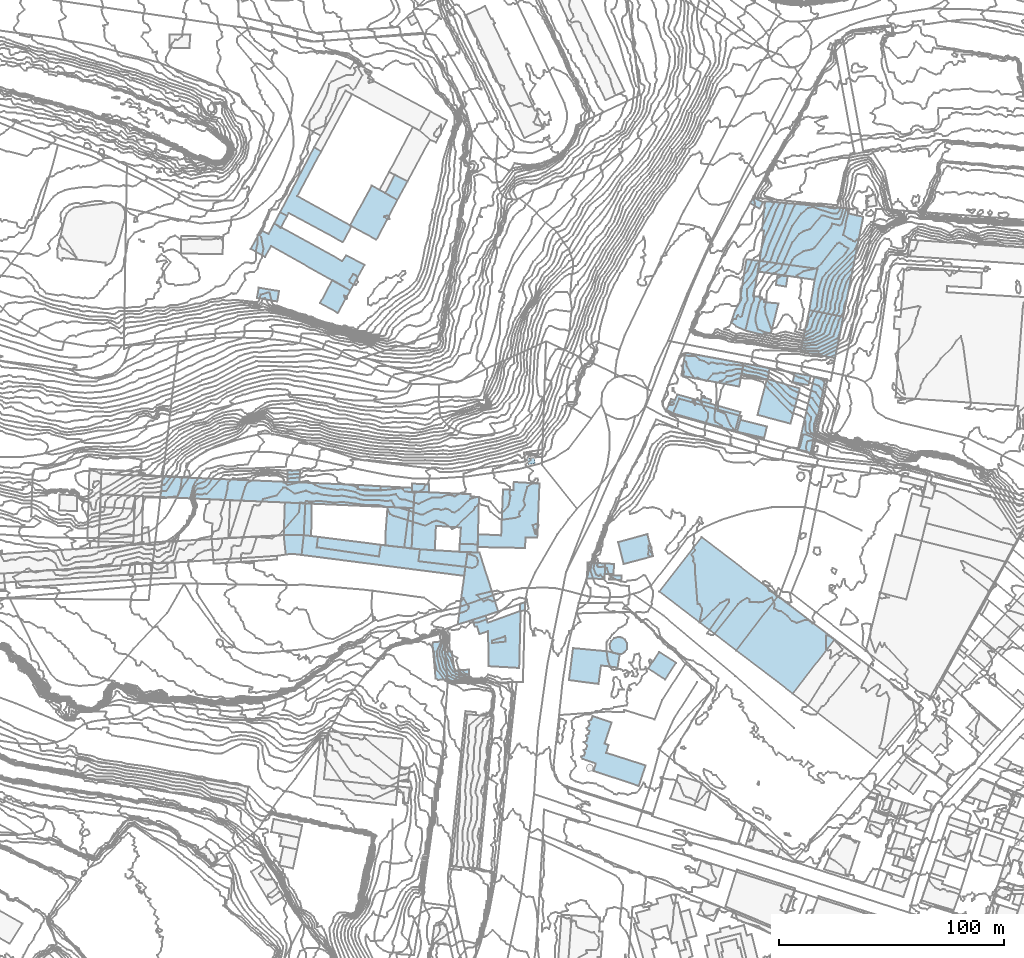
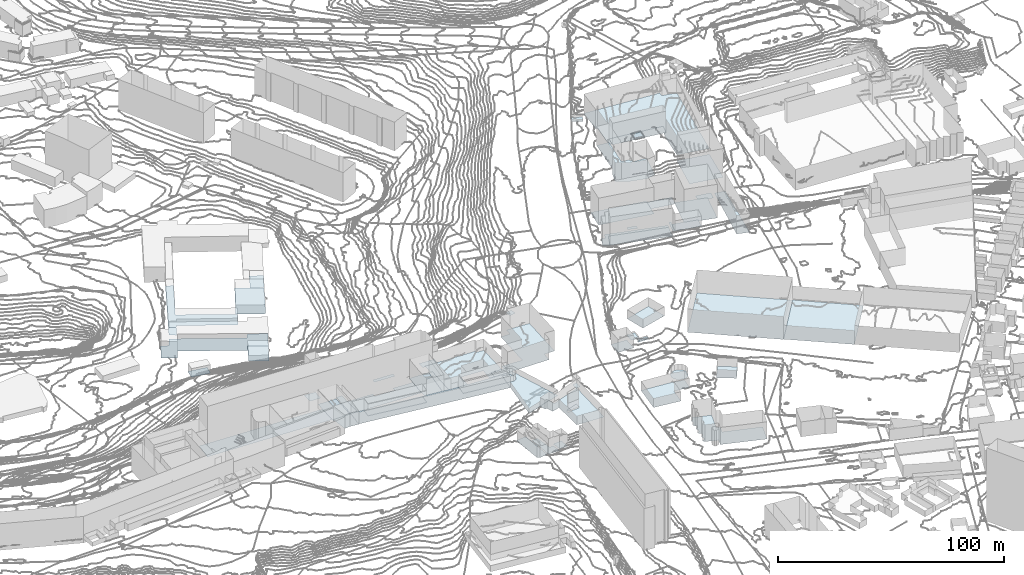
# Not in any storey, part 9 of 419: 56 footings.
"""IFC2X3 model written with IfcOpenShell, lengths in metres."""

from ifc_helpers import new_model, si_unit, frame, origin_with_axes, place, context, subcontext, project, faceted_brep, element, save


model = new_model("IFC2X3")

# Units and contexts
model_context = context("Model", 3, precision=1e-05, world=origin_with_axes())
body_context = subcontext(model_context, "Body", "Model", "MODEL_VIEW")
ifc_project = project(units=[si_unit("AREAUNIT", "SQUARE_METRE"), si_unit("LENGTHUNIT", "METRE")], contexts=[model_context])

# Footings
footing_1_placement = place(None, frame((808.3920204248, 392.4976909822, 74.1273982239), z_axis=(0.0, 0.0, 1.0), x_axis=(1.0, 0.0, 0.0)))
element("IfcFooting", 1, at=footing_1_placement, Name="Sol 0", PredefinedType="STRIP_FOOTING", context=body_context, shape_type="Brep", body=[
    faceted_brep([(7.0, -1.3999999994, 0.0), (0.0, 0.0, 0.0), (0.7999999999, 4.0, 0.0), (7.8999999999, 2.7000000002, 0.0)], [[[0, 1, 2]], [[2, 3, 0]]]),
])
footing_2_placement = place(None, frame((782.6920204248, 370.6976909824, 79.8897016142), z_axis=(0.0, 0.0, 1.0), x_axis=(1.0, 0.0, 0.0)))
element("IfcFooting", 2, at=footing_2_placement, Name="Sol 0", PredefinedType="STRIP_FOOTING", context=body_context, shape_type="Brep", body=[
    faceted_brep([(0.0, 0.0, 0.0), (1.9, 6.9000000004, 0.0), (2.9, 6.6000000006, 0.0), (0.9, -0.2999999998, 0.0)], [[[0, 1, 2]], [[2, 3, 0]]]),
])
footing_3_placement = place(None, frame((792.7920204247, 441.5976909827, 80.2005007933), z_axis=(0.0, 0.0, 1.0), x_axis=(1.0, 0.0, 0.0)))
element("IfcFooting", 3, at=footing_3_placement, Name="Sol 0", PredefinedType="STRIP_FOOTING", context=body_context, shape_type="Brep", body=[
    faceted_brep([(26.6000000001, 1.2000000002, 0.0), (25.3, -3.7000000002, 0.0), (0.0, 0.0, 0.0), (0.9, 4.7000000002, 0.0)], [[[0, 1, 2]], [[2, 3, 0]]]),
])
footing_4_placement = place(None, frame((570.3920204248, 429.7976909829, 39.4399986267), z_axis=(0.0, 0.0, 1.0), x_axis=(1.0, 0.0, 0.0)))
element("IfcFooting", 4, at=footing_4_placement, Name="Sol 0", PredefinedType="STRIP_FOOTING", context=body_context, shape_type="Brep", body=[
    faceted_brep([(9.7999999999, 3.0999999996, 0.0), (9.0, -1.5, 0.0), (0.0, 0.0, 0.0), (0.7999999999, 4.5999999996, 0.0)], [[[0, 1, 2]], [[2, 3, 0]]]),
])
footing_5_placement = place(None, frame((724.8920204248, 307.2976909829, 79.5649978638), z_axis=(0.0, 0.0, 1.0), x_axis=(1.0, 0.0, 0.0)))
element("IfcFooting", 5, at=footing_5_placement, Name="Sol 0", PredefinedType="STRIP_FOOTING", context=body_context, shape_type="Brep", body=[
    faceted_brep([(3.8999999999, -0.2000000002, 0.0), (0.0, 0.0, 0.0), (0.2, 4.5999999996, 0.0), (4.1, 4.3999999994, 0.0)], [[[0, 1, 2]], [[2, 3, 0]]]),
])
footing_6_placement = place(None, frame((582.2920204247, 324.4976909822, 76.1870000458), z_axis=(0.0, 0.0, 1.0), x_axis=(1.0, 0.0, 0.0)))
element("IfcFooting", 6, at=footing_6_placement, Name="Sol 0", PredefinedType="STRIP_FOOTING", context=body_context, shape_type="Brep", body=[
    faceted_brep([(8.9, 0.0, 0.0), (7.9, -8.7999999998, 0.0), (3.7000000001, -8.2999999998, 0.0), (0.9, -8.5999999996, 0.0), (0.0, 0.0, 0.0)], [[[0, 1, 2]], [[3, 4, 0]], [[0, 2, 3]]]),
])
footing_7_placement = place(None, frame((662.9920204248, 310.3976909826, 76.4266980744), z_axis=(0.0, 0.0, 1.0), x_axis=(1.0, 0.0, 0.0)))
element("IfcFooting", 7, at=footing_7_placement, Name="Sol 0", PredefinedType="STRIP_FOOTING", context=body_context, shape_type="Brep", body=[
    faceted_brep([(3.0, -0.5, 0.0), (0.0, 0.0, 0.0), (0.9, 5.7000000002, 0.0), (5.2999999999, 1.0, 0.0), (4.2999999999, -0.0999999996, 0.0), (5.2, 3.9000000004, 0.0), (5.6, 2.5, 0.0), (4.1, 4.9000000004, 0.0)], [[[0, 1, 2]], [[3, 4, 0]], [[5, 6, 3]], [[2, 7, 5]], [[3, 0, 2]], [[2, 5, 3]]]),
])
footing_8_placement = place(None, frame((627.3920204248, 319.8976909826, 74.774999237), z_axis=(0.0, 0.0, 1.0), x_axis=(1.0, 0.0, 0.0)))
element("IfcFooting", 8, at=footing_8_placement, Name="Sol 0", PredefinedType="STRIP_FOOTING", context=body_context, shape_type="Brep", body=[
    faceted_brep([(0.0, 0.0, 0.0), (0.2, 6.4000000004, 0.0), (1.0, 17.0999999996, 0.0), (10.7, 16.7000000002, 0.0), (8.3999999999, -0.9000000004, 0.0)], [[[0, 1, 2]], [[3, 4, 0]], [[0, 2, 3]]]),
])
footing_9_placement = place(None, frame((749.0920204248, 299.4976909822, 80.233997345), z_axis=(0.0, 0.0, 1.0), x_axis=(1.0, 0.0, 0.0)))
element("IfcFooting", 9, at=footing_9_placement, Name="Sol 0", PredefinedType="STRIP_FOOTING", context=body_context, shape_type="Brep", body=[
    faceted_brep([(18.8, 24.1000000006, 0.0), (52.1, -1.3999999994, 0.0), (52.7, -2.0, 0.0), (34.1, -26.1999999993, 0.0), (0.0, 0.0, 0.0)], [[[0, 1, 2]], [[3, 4, 0]], [[0, 2, 3]]]),
])
footing_10_placement = place(None, frame((758.8920204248, 395.2976909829, 76.6662023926), z_axis=(0.0, 0.0, 1.0), x_axis=(1.0, 0.0, 0.0)))
element("IfcFooting", 10, at=footing_10_placement, Name="Sol 0", PredefinedType="STRIP_FOOTING", context=body_context, shape_type="Brep", body=[
    faceted_brep([(0.0, 0.0, 0.0), (1.7, 9.8999999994, 0.0), (2.1, 10.1999999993, 0.0), (27.6, 5.5, 0.0), (25.7, -4.8000000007, 0.0)], [[[0, 1, 2]], [[3, 4, 0]], [[0, 2, 3]]]),
])
footing_11_placement = place(None, frame((793.6920204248, 446.2976909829, 77.1019989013), z_axis=(0.0, 0.0, 1.0), x_axis=(1.0, 0.0, 0.0)))
element("IfcFooting", 11, at=footing_11_placement, Name="Sol 0", PredefinedType="STRIP_FOOTING", context=body_context, shape_type="Brep", body=[
    faceted_brep([(1.0, 13.5, 0.0), (2.4, 26.5, 0.0), (34.3, 23.6999999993, 0.0), (25.7000000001, -3.5, 0.0), (0.0, 0.0, 0.0), (1.9, 13.3999999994, 0.0), (22.1, -21.9000000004, 0.0), (24.4, -8.4000000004, 0.0), (46.0, 19.5999999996, 0.0), (37.1, -24.8000000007, 0.0), (39.4, 23.2999999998, 0.0), (39.2000000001, 21.0999999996, 0.0)], [[[0, 1, 2]], [[3, 4, 5]], [[6, 7, 3]], [[8, 9, 6]], [[2, 10, 11]], [[5, 0, 2]], [[8, 6, 3]], [[5, 2, 11]], [[8, 3, 5]], [[5, 11, 8]]]),
])
footing_12_placement = place(None, frame((783.1920204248, 273.2976909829, 80.3804008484), z_axis=(0.0, 0.0, 1.0), x_axis=(1.0, 0.0, 0.0)))
element("IfcFooting", 12, at=footing_12_placement, Name="Sol 0", PredefinedType="STRIP_FOOTING", context=body_context, shape_type="Brep", body=[
    faceted_brep([(0.0, 0.0, 0.0), (18.6, 24.1999999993, 0.0), (43.7000000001, 4.8999999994, 0.0), (25.2000000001, -19.2000000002, 0.0)], [[[0, 1, 2]], [[2, 3, 0]]]),
])
footing_13_placement = place(None, frame((726.8920204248, 304.7976909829, 79.458000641), z_axis=(0.0, 0.0, 1.0), x_axis=(1.0, 0.0, 0.0)))
element("IfcFooting", 13, at=footing_13_placement, Name="Sol 0", PredefinedType="STRIP_FOOTING", context=body_context, shape_type="Brep", body=[
    faceted_brep([(0.7, 1.8999999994, 0.0), (5.5, 1.6999999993, 0.0), (5.2999999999, -0.2000000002, 0.0), (0.0, 0.0, 0.0), (0.0, 0.5, 0.0), (0.6, 0.5, 0.0)], [[[0, 1, 2]], [[3, 4, 5]], [[5, 0, 2]], [[2, 3, 5]]]),
])
footing_14_placement = place(None, frame((627.3920204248, 476.3976909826, 39.5999984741), z_axis=(0.0, 0.0, 1.0), x_axis=(1.0, 0.0, 0.0)))
element("IfcFooting", 14, at=footing_14_placement, Name="Sol 0", PredefinedType="STRIP_FOOTING", context=body_context, shape_type="Brep", body=[
    faceted_brep([(4.2, 8.2000000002, 0.0), (9.7999999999, 5.2000000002, 0.0), (5.2999999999, -3.0, 0.0), (0.0, 0.0, 0.0)], [[[0, 1, 2]], [[2, 3, 0]]]),
])
footing_15_placement = place(None, frame((598.3920204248, 427.4976909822, 39.6550003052), z_axis=(0.0, 0.0, 1.0), x_axis=(1.0, 0.0, 0.0)))
element("IfcFooting", 15, at=footing_15_placement, Name="Sol 0", PredefinedType="STRIP_FOOTING", context=body_context, shape_type="Brep", body=[
    faceted_brep([(5.3999999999, 10.4000000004, 0.0), (13.3999999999, 5.7000000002, 0.0), (7.8999999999, -4.2999999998, 0.0), (0.0, 0.0, 0.0)], [[[0, 1, 2]], [[2, 3, 0]]]),
])
footing_16_placement = place(None, frame((615.0920204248, 344.8976909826, 72.5699978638), z_axis=(0.0, 0.0, 1.0), x_axis=(1.0, 0.0, 0.0)))
element("IfcFooting", 16, at=footing_16_placement, Name="Sol 0", PredefinedType="STRIP_FOOTING", context=body_context, shape_type="Brep", body=[
    faceted_brep([(0.0, 0.0, 0.0), (0.2, 1.9000000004, 0.0), (10.3, 1.2999999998, 0.0), (10.2, -0.5, 0.0)], [[[0, 1, 2]], [[2, 3, 0]]]),
])
footing_17_placement = place(None, frame((583.9920204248, 348.1976909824, 71.1299972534), z_axis=(0.0, 0.0, 1.0), x_axis=(1.0, 0.0, 0.0)))
element("IfcFooting", 17, at=footing_17_placement, Name="Sol 0", PredefinedType="STRIP_FOOTING", context=body_context, shape_type="Brep", body=[
    faceted_brep([(5.2999999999, -0.2000000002, 0.0), (0.0, 0.0, 0.0), (0.1, 5.2000000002, 0.0), (5.6, 4.9000000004, 0.0)], [[[0, 1, 2]], [[2, 3, 0]]]),
])
footing_18_placement = place(None, frame((660.4920204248, 317.0976909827, 76.4400024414), z_axis=(0.0, 0.0, 1.0), x_axis=(1.0, 0.0, 0.0)))
element("IfcFooting", 18, at=footing_18_placement, Name="Sol 0", PredefinedType="STRIP_FOOTING", context=body_context, shape_type="Brep", body=[
    faceted_brep([(8.0, 3.2999999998, 0.0), (7.7999999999, 0.0999999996, 0.0), (7.7, -0.2999999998, 0.0), (0.0, 0.0, 0.0), (0.0, 3.5, 0.0)], [[[0, 1, 2]], [[3, 4, 0]], [[0, 2, 3]]]),
])
footing_19_placement = place(None, frame((767.3920204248, 384.0976909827, 78.0046014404), z_axis=(0.0, 0.0, 1.0), x_axis=(1.0, 0.0, 0.0)))
element("IfcFooting", 19, at=footing_19_placement, Name="Sol 0", PredefinedType="STRIP_FOOTING", context=body_context, shape_type="Brep", body=[
    faceted_brep([(4.2999999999, -1.2000000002, 0.0), (0.0, 0.0, 0.0), (0.5, 1.7000000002, 0.0), (4.7999999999, 0.5, 0.0)], [[[0, 1, 2]], [[2, 3, 0]]]),
])
footing_20_placement = place(None, frame((714.3920204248, 226.1976909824, 78.0216014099), z_axis=(0.0, 0.0, 1.0), x_axis=(1.0, 0.0, 0.0)))
element("IfcFooting", 20, at=footing_20_placement, Name="Sol 0", PredefinedType="STRIP_FOOTING", context=body_context, shape_type="Brep", body=[
    faceted_brep([(6.5, -3.0999999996, 0.0), (5.2, -2.7000000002, 0.0), (0.7, -1.0999999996, 0.0), (25.6, -13.0999999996, 0.0), (5.5, -6.5, 0.0), (11.1, 1.6000000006, 0.0), (28.6, -4.0, 0.0), (10.3999999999, 5.7000000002, 0.0), (12.1, 5.1000000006, 0.0), (5.0, 17.9000000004, 0.0), (13.5, 15.1000000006, 0.0), (3.7999999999, 14.5, 0.0), (3.2999999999, 15.7000000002, 0.0), (4.5, 16.2999999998, 0.0), (2.8999999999, 11.7000000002, 0.0), (2.3999999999, 12.7000000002, 0.0), (3.2999999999, 13.2999999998, 0.0), (2.7999999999, 8.2999999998, 0.0), (2.1, 9.4000000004, 0.0), (3.2999999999, 10.0, 0.0), (2.7, 4.7999999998, 0.0), (1.1, 6.2999999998, 0.0), (2.2999999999, 6.9000000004, 0.0), (1.7, 1.7999999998, 0.0), (1.1, 2.7999999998, 0.0), (2.1, 3.2999999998, 0.0), (0.0, 0.0, 0.0), (1.2999999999, 0.5, 0.0), (3.7999999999, 11.4000000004, 0.0)], [[[0, 1, 2]], [[3, 4, 0]], [[5, 6, 3]], [[7, 8, 5]], [[9, 10, 7]], [[11, 12, 13]], [[14, 15, 16]], [[17, 18, 19]], [[20, 21, 22]], [[23, 24, 25]], [[2, 26, 27]], [[5, 3, 0]], [[9, 7, 5]], [[14, 16, 11]], [[17, 19, 28]], [[20, 22, 17]], [[23, 25, 20]], [[0, 2, 27]], [[9, 5, 0]], [[14, 11, 13]], [[20, 17, 28]], [[27, 23, 20]], [[13, 9, 0]], [[28, 14, 13]], [[0, 27, 20]], [[28, 13, 0]], [[0, 20, 28]]]),
])
footing_21_placement = place(None, frame((580.5920204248, 467.8976909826, 39.4398013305), z_axis=(0.0, 0.0, 1.0), x_axis=(1.0, 0.0, 0.0)))
element("IfcFooting", 21, at=footing_21_placement, Name="Sol 0", PredefinedType="STRIP_FOOTING", context=body_context, shape_type="Brep", body=[
    faceted_brep([(15.1, 28.7999999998, 0.0), (18.3, 27.0999999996, 0.0), (7.7, 7.2000000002, 0.0), (3.1, -1.5999999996, 0.0), (0.0, 0.0, 0.0), (31.8, -6.2000000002, 0.0), (27.9, -13.2999999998, 0.0), (3.9, -0.2999999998, 0.0)], [[[0, 1, 2]], [[3, 4, 0]], [[5, 6, 7]], [[3, 0, 2]], [[2, 5, 7]], [[7, 3, 2]]]),
])
footing_22_placement = place(None, frame((567.5920204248, 451.6976909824, 37.4309989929), z_axis=(0.0, 0.0, 1.0), x_axis=(1.0, 0.0, 0.0)))
element("IfcFooting", 22, at=footing_22_placement, Name="Sol 0", PredefinedType="STRIP_FOOTING", context=body_context, shape_type="Brep", body=[
    faceted_brep([(42.4, -2.8999999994, 0.0), (50.5, -7.2000000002, 0.0), (44.2, -18.5, 0.0), (7.9, 6.6000000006, 0.0), (10.4, 11.2000000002, 0.0), (40.7, -5.5, 0.0), (0.0, 0.0, 0.0), (4.4, 8.2000000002, 0.0), (9.0, 1.2000000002, 0.0), (6.3, -3.7000000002, 0.0)], [[[0, 1, 2]], [[3, 4, 5]], [[6, 7, 3]], [[8, 9, 6]], [[5, 0, 2]], [[8, 6, 3]], [[5, 2, 8]], [[8, 3, 5]]]),
])
footing_23_placement = place(None, frame((590.1920204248, 315.6976909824, 76.3650003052), z_axis=(0.0, 0.0, 1.0), x_axis=(1.0, 0.0, 0.0)))
element("IfcFooting", 23, at=footing_23_placement, Name="Sol 0", PredefinedType="STRIP_FOOTING", context=body_context, shape_type="Brep", body=[
    faceted_brep([(72.8, -5.2999999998, 0.0), (72.2000000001, -9.2999999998, 0.0), (0.0, 0.0, 0.0), (35.2000000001, 4.5, 0.0), (52.6, 2.5, 0.0), (51.9, -2.7999999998, 0.0), (1.0, 8.7999999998, 0.0), (7.3, 8.0, 0.0), (6.7000000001, 3.4000000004, 0.0), (34.4, -0.7000000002, 0.0)], [[[0, 1, 2]], [[3, 4, 5]], [[6, 7, 8]], [[5, 0, 2]], [[9, 3, 5]], [[2, 6, 8]], [[9, 5, 2]], [[2, 8, 9]]]),
])
footing_24_placement = place(None, frame((730.8920204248, 321.3976909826, 80.5776004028), z_axis=(0.0, 0.0, 1.0), x_axis=(1.0, 0.0, 0.0)))
element("IfcFooting", 24, at=footing_24_placement, Name="Sol 0", PredefinedType="STRIP_FOOTING", context=body_context, shape_type="Brep", body=[
    faceted_brep([(0.0, 0.0, 0.0), (12.8999999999, 3.5999999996, 0.0), (15.5, -6.2000000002, 0.0), (2.3999999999, -9.7000000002, 0.0)], [[[0, 1, 2]], [[2, 3, 0]]]),
])
footing_25_placement = place(None, frame((708.9920204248, 260.0976909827, 77.3778022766), z_axis=(0.0, 0.0, 1.0), x_axis=(1.0, 0.0, 0.0)))
element("IfcFooting", 25, at=footing_25_placement, Name="Sol 0", PredefinedType="STRIP_FOOTING", context=body_context, shape_type="Brep", body=[
    faceted_brep([(16.9, 12.7999999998, 0.0), (19.9, 12.0999999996, 0.0), (22.5, 11.3999999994, 0.0), (0.0, 0.0, 0.0), (1.7999999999, 14.2000000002, 0.0), (14.2, 6.5, 0.0), (13.1, -1.7000000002, 0.0), (21.6, 5.5999999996, 0.0)], [[[0, 1, 2]], [[3, 4, 0]], [[5, 6, 3]], [[2, 7, 5]], [[3, 0, 2]], [[2, 5, 3]]]),
])
footing_26_placement = place(None, frame((690.3920204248, 358.6976909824, 75.3517977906), z_axis=(0.0, 0.0, 1.0), x_axis=(1.0, 0.0, 0.0)))
element("IfcFooting", 26, at=footing_26_placement, Name="Sol 0", PredefinedType="STRIP_FOOTING", context=body_context, shape_type="Brep", body=[
    faceted_brep([(3.5, -2.2000000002, 0.0), (0.5, -2.7999999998, 0.0), (0.0, 0.0, 0.0), (3.0, 0.7000000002, 0.0)], [[[0, 1, 2]], [[2, 3, 0]]]),
])
footing_27_placement = place(None, frame((639.2920204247, 343.8976909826, 72.5990028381), z_axis=(0.0, 0.0, 1.0), x_axis=(1.0, 0.0, 0.0)))
element("IfcFooting", 27, at=footing_27_placement, Name="Sol 0", PredefinedType="STRIP_FOOTING", context=body_context, shape_type="Brep", body=[
    faceted_brep([(7.5, -0.2999999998, 0.0), (1.1000000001, -0.0999999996, 0.0), (0.0, 0.0, 0.0), (0.0, 3.5, 0.0), (7.6000000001, 3.0999999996, 0.0)], [[[0, 1, 2]], [[3, 4, 0]], [[0, 2, 3]]]),
])
footing_28_placement = place(None, frame((642.0920204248, 312.8976909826, 76.4150009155), z_axis=(0.0, 0.0, 1.0), x_axis=(1.0, 0.0, 0.0)))
element("IfcFooting", 28, at=footing_28_placement, Name="Sol 0", PredefinedType="STRIP_FOOTING", context=body_context, shape_type="Brep", body=[
    faceted_brep([(21.8, 4.0, 0.0), (20.9, -2.5, 0.0), (0.0, 0.0, 0.0), (0.7, 5.2999999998, 0.0)], [[[0, 1, 2]], [[2, 3, 0]]]),
])
footing_29_placement = place(None, frame((596.8920204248, 319.0976909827, 76.4000015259), z_axis=(0.0, 0.0, 1.0), x_axis=(1.0, 0.0, 0.0)))
element("IfcFooting", 29, at=footing_29_placement, Name="Sol 0", PredefinedType="STRIP_FOOTING", context=body_context, shape_type="Brep", body=[
    faceted_brep([(0.6, 4.5999999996, 0.0), (28.5, 1.0999999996, 0.0), (27.7, -4.1000000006, 0.0), (0.0, 0.0, 0.0)], [[[0, 1, 2]], [[2, 3, 0]]]),
])
footing_30_placement = place(None, frame((653.9920204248, 272.5976909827, 71.1980010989), z_axis=(0.0, 0.0, 1.0), x_axis=(1.0, 0.0, 0.0)))
element("IfcFooting", 30, at=footing_30_placement, Name="Sol 0", PredefinedType="STRIP_FOOTING", context=body_context, shape_type="Brep", body=[
    faceted_brep([(6.1, -8.2000000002, 0.0), (6.7999999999, -12.7999999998, 0.0), (1.1, -12.7999999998, 0.0), (0.0, 0.0, 0.0), (3.0, 0.2999999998, 0.0), (4.2, -8.5, 0.0)], [[[0, 1, 2]], [[3, 4, 5]], [[5, 0, 2]], [[2, 3, 5]]]),
])
footing_31_placement = place(None, frame((800.8920204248, 435.5976909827, 83.8170013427), z_axis=(0.0, 0.0, 1.0), x_axis=(1.0, 0.0, 0.0)))
element("IfcFooting", 31, at=footing_31_placement, Name="Sol 0", PredefinedType="STRIP_FOOTING", context=body_context, shape_type="Brep", body=[
    faceted_brep([(5.2, 3.7999999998, 0.0), (4.5, -0.7000000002, 0.0), (0.0, 0.0, 0.0), (0.7, 4.5, 0.0)], [[[0, 1, 2]], [[2, 3, 0]]]),
])
footing_32_placement = place(None, frame((783.5920204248, 370.3976909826, 79.8899993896), z_axis=(0.0, 0.0, 1.0), x_axis=(1.0, 0.0, 0.0)))
element("IfcFooting", 32, at=footing_32_placement, Name="Sol 0", PredefinedType="STRIP_FOOTING", context=body_context, shape_type="Brep", body=[
    faceted_brep([(0.0, 0.0, 0.0), (1.5, 5.2999999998, 0.0), (13.3, 2.2999999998, 0.0), (12.1, -2.7000000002, 0.0)], [[[0, 1, 2]], [[2, 3, 0]]]),
])
footing_33_placement = place(None, frame((611.6920204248, 461.9976909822, 39.5172005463), z_axis=(0.0, 0.0, 1.0), x_axis=(1.0, 0.0, 0.0)))
element("IfcFooting", 33, at=footing_33_placement, Name="Sol 0", PredefinedType="STRIP_FOOTING", context=body_context, shape_type="Brep", body=[
    faceted_brep([(0.0, 0.0, 0.0), (9.7000000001, 17.8000000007, 0.0), (13.1, 15.8000000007, 0.0), (21.0, 11.4000000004, 0.0), (11.7000000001, -6.2999999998, 0.0)], [[[0, 1, 2]], [[3, 4, 0]], [[0, 2, 3]]]),
])
footing_34_placement = place(None, frame((660.0920204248, 264.3976909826, 72.1544018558), z_axis=(0.0, 0.0, 1.0), x_axis=(1.0, 0.0, 0.0)))
element("IfcFooting", 34, at=footing_34_placement, Name="Sol 0", PredefinedType="STRIP_FOOTING", context=body_context, shape_type="Brep", body=[
    faceted_brep([(4.4, 0.4000000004, 0.0), (4.7, -4.5999999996, 0.0), (0.7, -4.5999999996, 0.0), (0.0, 0.0, 0.0)], [[[0, 1, 2]], [[2, 3, 0]]]),
])
footing_35_placement = place(None, frame((659.5920204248, 284.7976909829, 76.4266980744), z_axis=(0.0, 0.0, 1.0), x_axis=(1.0, 0.0, 0.0)))
element("IfcFooting", 35, at=footing_35_placement, Name="Sol 0", PredefinedType="STRIP_FOOTING", context=body_context, shape_type="Brep", body=[
    faceted_brep([(4.3, 31.2999999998, 0.0), (4.3, 32.0999999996, 0.0), (9.7, 32.0, 0.0), (0.0, 0.0, 0.0), (3.4, 25.5999999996, 0.0), (6.4, 25.0999999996, 0.0), (7.5, 30.5, 0.0), (7.7, 25.5, 0.0), (8.6, 29.5, 0.0), (8.7, 26.5999999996, 0.0), (18.0, 5.7999999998, 0.0), (9.0, 28.0999999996, 0.0)], [[[0, 1, 2]], [[3, 4, 5]], [[6, 0, 2]], [[3, 5, 7]], [[8, 6, 2]], [[3, 7, 9]], [[8, 2, 10]], [[10, 3, 9]], [[11, 8, 10]], [[10, 9, 11]]]),
])
footing_36_placement = place(None, frame((527.4920204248, 341.3976909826, 64.9170021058), z_axis=(0.0, 0.0, 1.0), x_axis=(1.0, 0.0, 0.0)))
element("IfcFooting", 36, at=footing_36_placement, Name="Sol 0", PredefinedType="STRIP_FOOTING", context=body_context, shape_type="Brep", body=[
    faceted_brep([(0.0, 0.0, 0.0), (1.1, 9.0999999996, 0.0), (87.7999999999, 5.4000000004, 0.0), (112.9, 2.4000000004, 0.0), (112.4, -4.9000000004, 0.0), (97.9, 4.7999999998, 0.0), (111.7999999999, 4.0999999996, 0.0), (111.7999999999, 2.5, 0.0), (87.6, 3.5, 0.0), (97.7999999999, 3.0, 0.0)], [[[0, 1, 2]], [[3, 4, 0]], [[5, 6, 7]], [[0, 2, 8]], [[7, 3, 0]], [[9, 5, 7]], [[0, 8, 9]], [[9, 7, 0]]]),
])
footing_37_placement = place(None, frame((674.7920204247, 276.5976909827, 77.3393980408), z_axis=(0.0, 0.0, 1.0), x_axis=(1.0, 0.0, 0.0)))
element("IfcFooting", 37, at=footing_37_placement, Name="Sol 0", PredefinedType="STRIP_FOOTING", context=body_context, shape_type="Brep", body=[
    faceted_brep([(0.0, 1.0999999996, 0.0), (5.9, 3.0, 0.0), (6.0, 0.5999999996, 0.0), (0.0, 0.0, 0.0)], [[[0, 1, 2]], [[2, 3, 0]]]),
])
footing_38_placement = place(None, frame((635.7920204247, 318.9976909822, 74.6659996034), z_axis=(0.0, 0.0, 1.0), x_axis=(1.0, 0.0, 0.0)))
element("IfcFooting", 38, at=footing_38_placement, Name="Sol 0", PredefinedType="STRIP_FOOTING", context=body_context, shape_type="Brep", body=[
    faceted_brep([(4.1000000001, 17.5, 0.0), (3.3, -0.5, 0.0), (0.0, 0.0, 0.0), (2.3, 17.6000000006, 0.0)], [[[0, 1, 2]], [[2, 3, 0]]]),
])
footing_39_placement = place(None, frame((582.2920204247, 324.4976909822, 75.4519998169), z_axis=(0.0, 0.0, 1.0), x_axis=(1.0, 0.0, 0.0)))
element("IfcFooting", 39, at=footing_39_placement, Name="Sol 0", PredefinedType="STRIP_FOOTING", context=body_context, shape_type="Brep", body=[
    faceted_brep([(0.0, 0.0, 0.0), (0.5, 14.5, 0.0), (9.6000000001, 14.1000000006, 0.0), (8.9, 0.0, 0.0)], [[[0, 1, 2]], [[2, 3, 0]]]),
])
footing_40_placement = place(None, frame((811.6920204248, 405.9976909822, 73.9557995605), z_axis=(0.0, 0.0, 1.0), x_axis=(1.0, 0.0, 0.0)))
element("IfcFooting", 40, at=footing_40_placement, Name="Sol 0", PredefinedType="STRIP_FOOTING", context=body_context, shape_type="Brep", body=[
    faceted_brep([(19.1, 15.5, 0.0), (15.5, -2.8999999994, 0.0), (0.0, 0.0, 0.0), (4.1, 18.4000000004, 0.0)], [[[0, 1, 2]], [[2, 3, 0]]]),
])
footing_41_placement = place(None, frame((789.3920204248, 471.8976909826, 75.6900009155), z_axis=(0.0, 0.0, 1.0), x_axis=(1.0, 0.0, 0.0)))
element("IfcFooting", 41, at=footing_41_placement, Name="Sol 0", PredefinedType="STRIP_FOOTING", context=body_context, shape_type="Brep", body=[
    faceted_brep([(0.0, 0.0, 0.0), (1.3999999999, 2.5999999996, 0.0), (5.7, 0.5, 0.0), (4.2999999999, -2.4000000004, 0.0)], [[[0, 1, 2]], [[2, 3, 0]]]),
])
footing_42_placement = place(None, frame((785.6920204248, 395.3976909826, 75.9684982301), z_axis=(0.0, 0.0, 1.0), x_axis=(1.0, 0.0, 0.0)))
element("IfcFooting", 42, at=footing_42_placement, Name="Sol 0", PredefinedType="STRIP_FOOTING", context=body_context, shape_type="Brep", body=[
    faceted_brep([(11.1, -2.0, 0.0), (0.0, 0.0, 0.0), (0.8, 5.4000000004, 0.0), (12.4, 3.2999999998, 0.0), (11.6, -1.7999999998, 0.0), (11.2000000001, -1.5999999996, 0.0)], [[[0, 1, 2]], [[3, 4, 5]], [[0, 2, 3]], [[3, 5, 0]]]),
])
footing_43_placement = place(None, frame((755.0920204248, 378.5976909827, 77.1989997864), z_axis=(0.0, 0.0, 1.0), x_axis=(1.0, 0.0, 0.0)))
element("IfcFooting", 43, at=footing_43_placement, Name="Sol 0", PredefinedType="STRIP_FOOTING", context=body_context, shape_type="Brep", body=[
    faceted_brep([(29.5, -1.0, 0.0), (27.6, -7.9000000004, 0.0), (0.0, 0.0, 0.0), (2.9, 6.5, 0.0)], [[[0, 1, 2]], [[2, 3, 0]]]),
])
footing_44_placement = place(None, frame((716.9920204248, 305.2976909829, 76.9332013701), z_axis=(0.0, 0.0, 1.0), x_axis=(1.0, 0.0, 0.0)))
element("IfcFooting", 44, at=footing_44_placement, Name="Sol 0", PredefinedType="STRIP_FOOTING", context=body_context, shape_type="Brep", body=[
    faceted_brep([(0.0, 0.0, 0.0), (0.2999999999, 7.0, 0.0), (8.1, 6.5999999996, 0.0), (7.7999999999, -0.3000000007, 0.0)], [[[0, 1, 2]], [[2, 3, 0]]]),
])
footing_45_placement = place(None, frame((727.0920204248, 275.8976909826, 78.109998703), z_axis=(0.0, 0.0, 1.0), x_axis=(1.0, 0.0, 0.0)))
element("IfcFooting", 45, at=footing_45_placement, Name="Sol 0", PredefinedType="STRIP_FOOTING", context=body_context, shape_type="Brep", body=[
    faceted_brep([(5.1, -4.2999999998, 0.0), (1.8, -3.7000000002, 0.0), (0.2, -1.7999999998, 0.0), (7.6, -1.9000000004, 0.0), (6.6, -3.4000000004, 0.0), (6.8, 2.2000000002, 0.0), (7.7, 0.7000000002, 0.0), (3.6, 3.4000000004, 0.0), (5.3, 3.2000000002, 0.0), (0.6, 1.5999999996, 0.0), (1.9, 2.7999999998, 0.0), (0.0, 0.0, 0.0)], [[[0, 1, 2]], [[3, 4, 0]], [[5, 6, 3]], [[7, 8, 5]], [[9, 10, 7]], [[2, 11, 9]], [[3, 0, 2]], [[7, 5, 3]], [[2, 9, 7]], [[7, 3, 2]]]),
])
footing_46_placement = place(None, frame((591.1920204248, 324.4976909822, 76.2636010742), z_axis=(0.0, 0.0, 1.0), x_axis=(1.0, 0.0, 0.0)))
element("IfcFooting", 46, at=footing_46_placement, Name="Sol 0", PredefinedType="STRIP_FOOTING", context=body_context, shape_type="Brep", body=[
    faceted_brep([(3.3, -0.3999999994, 0.0), (0.0, 0.0, 0.0), (0.7000000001, 14.1000000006, 0.0), (3.5, 14.0, 0.0)], [[[0, 1, 2]], [[2, 3, 0]]]),
])
footing_47_placement = place(None, frame((577.9920204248, 462.8976909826, 39.5182004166), z_axis=(0.0, 0.0, 1.0), x_axis=(1.0, 0.0, 0.0)))
element("IfcFooting", 47, at=footing_47_placement, Name="Sol 0", PredefinedType="STRIP_FOOTING", context=body_context, shape_type="Brep", body=[
    faceted_brep([(5.7, 3.4000000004, 0.0), (2.9, -1.9000000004, 0.0), (0.0, 0.0, 0.0), (2.6, 5.0, 0.0)], [[[0, 1, 2]], [[2, 3, 0]]]),
])
footing_48_placement = place(None, frame((744.0920204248, 265.1976909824, 78.0773980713), z_axis=(0.0, 0.0, 1.0), x_axis=(1.0, 0.0, 0.0)))
element("IfcFooting", 48, at=footing_48_placement, Name="Sol 0", PredefinedType="STRIP_FOOTING", context=body_context, shape_type="Brep", body=[
    faceted_brep([(4.9, 7.4000000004, 0.0), (12.4, 2.6000000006, 0.0), (7.6, -4.7999999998, 0.0), (0.0, 0.0, 0.0)], [[[0, 1, 2]], [[2, 3, 0]]]),
])
footing_49_placement = place(None, frame((668.3920204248, 319.1976909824, 74.5608015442), z_axis=(0.0, 0.0, 1.0), x_axis=(1.0, 0.0, 0.0)))
element("IfcFooting", 49, at=footing_49_placement, Name="Sol 0", PredefinedType="STRIP_FOOTING", context=body_context, shape_type="Brep", body=[
    faceted_brep([(10.5, 5.2000000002, 0.0), (11.2999999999, 25.6000000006, 0.0), (15.8999999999, 25.4000000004, 0.0), (0.0, 0.0, 0.0), (0.2, 5.7000000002, 0.0), (21.2999999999, 4.2999999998, 0.0), (21.1, -0.3999999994, 0.0), (27.5, 28.2000000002, 0.0), (26.5, 4.2000000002, 0.0), (16.1, 28.9000000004, 0.0)], [[[0, 1, 2]], [[3, 4, 0]], [[5, 6, 3]], [[7, 8, 5]], [[2, 9, 7]], [[5, 3, 0]], [[2, 7, 5]], [[5, 0, 2]]]),
])
footing_50_placement = place(None, frame((648.3920204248, 276.1976909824, 70.5738009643), z_axis=(0.0, 0.0, 1.0), x_axis=(1.0, 0.0, 0.0)))
element("IfcFooting", 50, at=footing_50_placement, Name="Sol 0", PredefinedType="STRIP_FOOTING", context=body_context, shape_type="Brep", body=[
    faceted_brep([(5.1, 1.2000000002, 0.0), (5.6, -3.5999999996, 0.0), (6.6, -15.5999999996, 0.0), (0.0, 0.0, 0.0), (0.2999999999, 0.7000000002, 0.0), (2.5, -16.0, 0.0), (1.3999999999, -15.2999999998, 0.0)], [[[0, 1, 2]], [[3, 4, 0]], [[5, 6, 3]], [[0, 2, 5]], [[5, 3, 0]]]),
])
footing_51_placement = place(None, frame((639.0920204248, 318.4976909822, 73.0108013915), z_axis=(0.0, 0.0, 1.0), x_axis=(1.0, 0.0, 0.0)))
element("IfcFooting", 51, at=footing_51_placement, Name="Sol 0", PredefinedType="STRIP_FOOTING", context=body_context, shape_type="Brep", body=[
    faceted_brep([(29.9, 22.9000000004, 0.0), (29.4, 1.9000000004, 0.0), (21.4, 2.1000000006, 0.0), (1.3, 25.3000000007, 0.0), (26.2, 24.2000000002, 0.0), (26.2, 23.2000000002, 0.0), (10.3, -0.7999999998, 0.0), (0.0, 0.0, 0.0), (21.9, 9.4000000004, 0.0), (10.8, 10.1000000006, 0.0)], [[[0, 1, 2]], [[3, 4, 5]], [[6, 7, 3]], [[0, 2, 8]], [[9, 6, 3]], [[0, 8, 9]], [[9, 3, 5]], [[5, 0, 9]]]),
])
footing_52_placement = place(None, frame((666.2920204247, 286.8976909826, 76.7629981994), z_axis=(0.0, 0.0, 1.0), x_axis=(1.0, 0.0, 0.0)))
element("IfcFooting", 52, at=footing_52_placement, Name="Sol 0", PredefinedType="STRIP_FOOTING", context=body_context, shape_type="Brep", body=[
    faceted_brep([(23.2000000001, 7.7999999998, 0.0), (23.1000000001, 4.2000000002, 0.0), (21.2000000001, 3.9000000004, 0.0), (20.9, 3.9000000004, 0.0), (20.9, 7.0999999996, 0.0), (0.0, 0.0, 0.0), (5.8, 1.9000000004, 0.0), (6.6000000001, -1.2999999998, 0.0), (1.9, -2.9000000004, 0.0), (0.9, -3.0999999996, 0.0), (6.8, -5.0999999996, 0.0), (2.9, -6.2999999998, 0.0), (20.6000000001, -21.4000000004, 0.0), (7.0, -20.5999999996, 0.0), (8.5, -10.2999999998, 0.0), (8.5, -9.2000000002, 0.0), (14.5, -9.7000000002, 0.0), (14.4, -7.2999999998, 0.0)], [[[0, 1, 2]], [[3, 4, 0]], [[5, 6, 7]], [[8, 9, 5]], [[10, 11, 8]], [[3, 0, 2]], [[8, 5, 7]], [[3, 2, 12]], [[10, 8, 7]], [[13, 10, 14]], [[10, 7, 3]], [[15, 14, 10]], [[13, 14, 16]], [[15, 10, 3]], [[12, 13, 16]], [[17, 15, 3]], [[12, 16, 17]], [[17, 3, 12]]]),
])
footing_53_placement = place(None, frame((792.6920204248, 377.8976909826, 76.4721983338), z_axis=(0.0, 0.0, 1.0), x_axis=(1.0, 0.0, 0.0)))
element("IfcFooting", 53, at=footing_53_placement, Name="Sol 0", PredefinedType="STRIP_FOOTING", context=body_context, shape_type="Brep", body=[
    faceted_brep([(14.7000000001, -3.9000000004, 0.0), (0.0, 0.0, 0.0), (4.1, 15.5, 0.0), (4.2000000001, 15.9000000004, 0.0), (18.8, 11.7999999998, 0.0)], [[[0, 1, 2]], [[3, 4, 0]], [[0, 2, 3]]]),
])
footing_54_placement = place(None, frame((752.2920204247, 380.1976909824, 77.1989997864), z_axis=(0.0, 0.0, 1.0), x_axis=(1.0, 0.0, 0.0)))
element("IfcFooting", 54, at=footing_54_placement, Name="Sol 0", PredefinedType="STRIP_FOOTING", context=body_context, shape_type="Brep", body=[
    faceted_brep([(5.7000000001, 4.9000000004, 0.0), (2.8, -1.5999999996, 0.0), (0.0, 0.0, 0.0), (32.8, -1.0999999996, 0.0), (32.3, -2.5999999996, 0.0), (2.0, 4.7999999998, 0.0), (3.7000000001, 4.1000000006, 0.0), (4.8, 6.7999999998, 0.0)], [[[0, 1, 2]], [[3, 4, 0]], [[2, 5, 6]], [[7, 3, 0]], [[0, 2, 6]], [[6, 7, 0]]]),
])
footing_55_placement = place(None, frame((810.5920204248, 362.3976909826, 73.6903987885), z_axis=(0.0, 0.0, 1.0), x_axis=(1.0, 0.0, 0.0)))
element("IfcFooting", 55, at=footing_55_placement, Name="Sol 0", PredefinedType="STRIP_FOOTING", context=body_context, shape_type="Brep", body=[
    faceted_brep([(0.0, 0.0, 0.0), (7.3, 32.2999999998, 0.0), (12.1, 31.2999999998, 0.0), (12.1, 30.7999999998, 0.0), (5.7, -1.7000000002, 0.0)], [[[0, 1, 2]], [[3, 4, 0]], [[0, 2, 3]]]),
])
footing_56_placement = place(None, frame((780.9920204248, 418.9976909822, 78.321199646), z_axis=(0.0, 0.0, 1.0), x_axis=(1.0, 0.0, 0.0)))
element("IfcFooting", 56, at=footing_56_placement, Name="Sol 0", PredefinedType="STRIP_FOOTING", context=body_context, shape_type="Brep", body=[
    faceted_brep([(6.7999999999, 28.0, 0.0), (12.7, 27.3000000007, 0.0), (10.0, 11.7000000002, 0.0), (0.0, 0.0, 0.0), (1.9, 5.6000000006, 0.0), (3.7999999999, 8.9000000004, 0.0), (6.0, -3.5, 0.0), (2.2999999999, -1.7999999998, 0.0), (17.7999999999, -4.5, 0.0), (13.5, -5.3999999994, 0.0), (14.6, 9.0, 0.0), (21.0, 8.4000000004, 0.0), (13.7, 10.3000000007, 0.0), (14.7999999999, 10.1000000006, 0.0), (13.7999999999, 11.1000000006, 0.0)], [[[0, 1, 2]], [[3, 4, 5]], [[6, 7, 3]], [[8, 9, 6]], [[10, 11, 8]], [[12, 13, 10]], [[2, 14, 12]], [[5, 0, 2]], [[6, 3, 5]], [[10, 8, 6]], [[2, 12, 10]], [[6, 5, 2]], [[2, 10, 6]]]),
])

save(model, "model.ifc")
